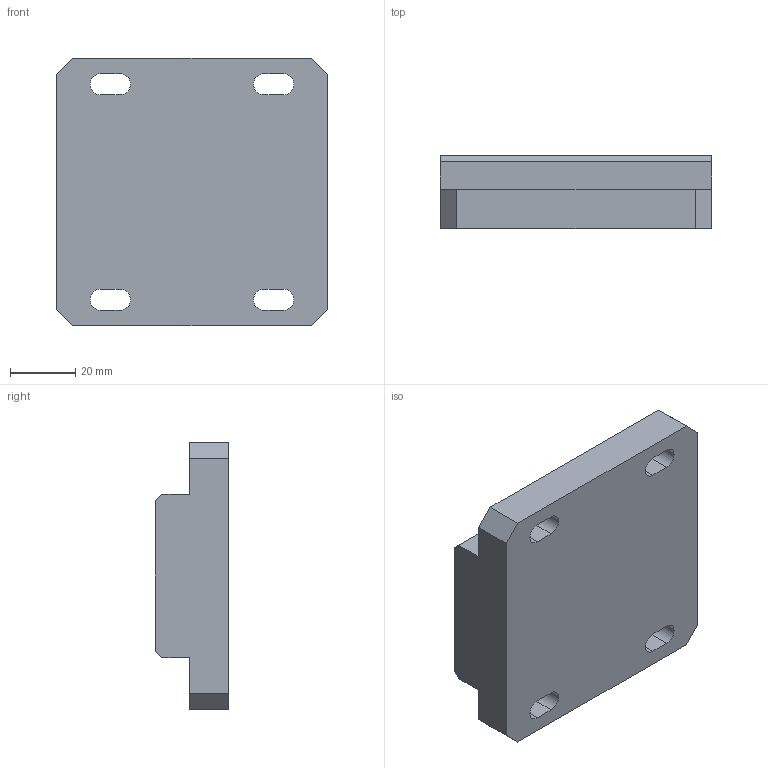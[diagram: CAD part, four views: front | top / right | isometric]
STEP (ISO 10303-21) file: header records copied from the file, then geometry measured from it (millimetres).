
FILE_DESCRIPTION(('CATIA V5 STEP Exchange'),'2;1');
FILE_NAME('D:\姚明阳\1、工装图纸\VDC阀插管工装治具\VDC阀插管工装治具\GZ30.04_V2.stp','2024-11-22T11:57:57+00:00',('none'),('none'),'CATIA Version 5 Release 21 GA (IN-10)','CATIA V5 STEP AP214','none');
FILE_SCHEMA(('AUTOMOTIVE_DESIGN { 1 0 10303 214 1 1 1 1 }'));
Length unit declared in the file: millimetre
Products named in the file (1): 肘夹垫块
Bounding box: 83 x 22.5 x 82 mm (x, y, z)
Volume: 119636.4 mm3; surface area: 21948.9 mm2
Topology: 1 solids, 1 shells, 48 faces, 134 edges, 92 vertices
Faces by surface type: plane 28, cylinder 20
Entity records: 1785 total; most frequent: CARTESIAN_POINT 268, ORIENTED_EDGE 268, DIRECTION 216, EDGE_CURVE 134, VERTEX_POINT 92, VECTOR 90, LINE 90, AXIS2_PLACEMENT_3D 86
